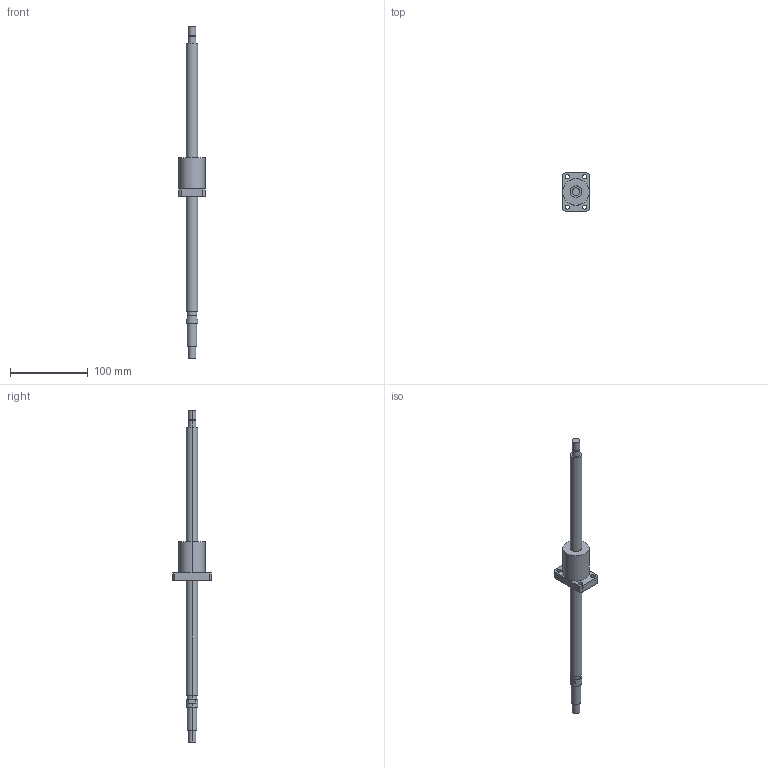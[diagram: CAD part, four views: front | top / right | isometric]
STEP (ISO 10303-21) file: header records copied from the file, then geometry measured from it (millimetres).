
FILE_DESCRIPTION((''),'2;1');
FILE_NAME('R15-10K3-FSC-339-421','2008-03-28T',('mahdi'),(''),'PRO/ENGINEER BY PARAMETRIC TECHNOLOGY CORPORATION, 2005070','PRO/ENGINEER BY PARAMETRIC TECHNOLOGY CORPORATION, 2005070','');
FILE_SCHEMA(('CONFIG_CONTROL_DESIGN'));
Length unit declared in the file: millimetre
Products named in the file (1): R15-10K3-FSC-339-421
Bounding box: 34 x 50 x 427 mm (x, y, z)
Volume: 111859.2 mm3; surface area: 27029.6 mm2
Topology: 1 solids, 1 shells, 66 faces, 148 edges, 96 vertices
Faces by surface type: cylinder 40, plane 26
Entity records: 1926 total; most frequent: DIRECTION 364, CARTESIAN_POINT 310, ORIENTED_EDGE 296, AXIS2_PLACEMENT_3D 150, EDGE_CURVE 148, VERTEX_POINT 96, EDGE_LOOP 86, CIRCLE 84
